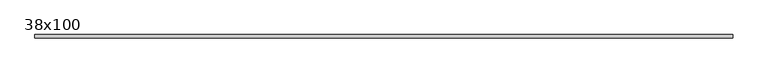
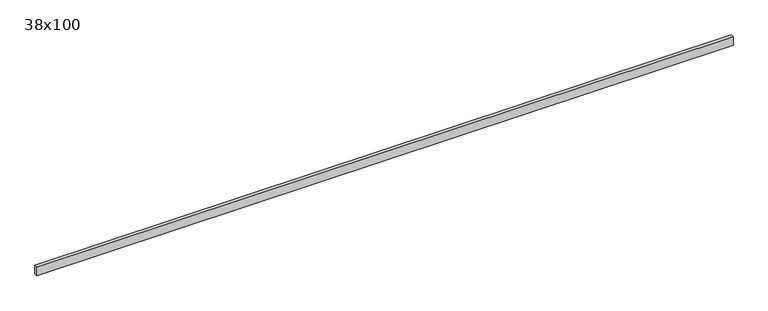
"""IFC4 building model written with IfcOpenShell, lengths in millimetres: beam geometry, Poutre - Bois de construction de dimensions courantes : 38x100."""

from ifc_helpers import new_model, si_unit, frame, origin, place, context, project, spatial, polyline, outline, extrude, source, transform, mapped, element, save


def beam_38x100_7cfbc8c1(model_context):
    return source(origin(), model_context, "Body", "SweptSolid", [
        extrude(outline(polyline([(3954.0, 19.05), (3954.0, -19.05), (-3954.0, -19.05), (-3954.0, 19.05), (3954.0, 19.05)])), frame((0.0, 0.0, -50.0), z_axis=(0.0, 0.0, 1.0), x_axis=(1.0, 0.0, 0.0)), (0.0, 0.0, 1.0), 100.0),
    ])


if __name__ == "__main__":
    model = new_model("IFC4")
    model_context = context("Model", 3, world=origin())
    ifc_project = project(units=[si_unit("LENGTHUNIT", "METRE", prefix="MILLI")], contexts=[model_context])
    site = spatial("IfcSite", under=ifc_project)
    building = spatial("IfcBuilding", under=site)
    placement = place(None, origin())
    beam_38x100_shape = beam_38x100_7cfbc8c1(model_context)
    element("IfcBeam", 1, ObjectType="Poutre - Bois de construction de dimensions courantes : 38x100", at=placement, inside=building, context=model_context, shape_type="MappedRepresentation", body=[
        mapped(beam_38x100_shape, transform((0.0, 0.0, 0.0), x_axis=(1.0, 0.0, 0.0), y_axis=(0.0, 1.0, 0.0), z_axis=(0.0, 0.0, 1.0))),
    ])
    save(model, "model.ifc")
